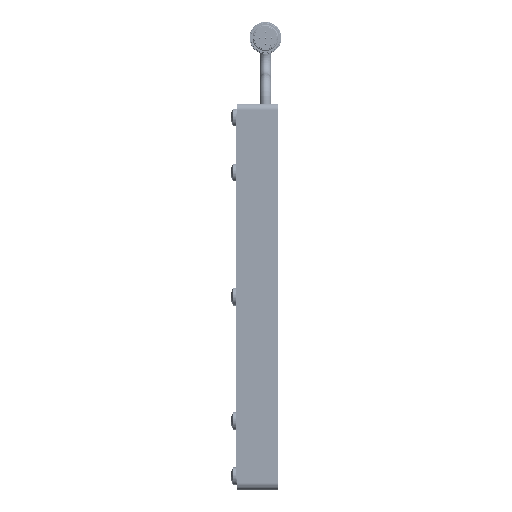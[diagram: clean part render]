
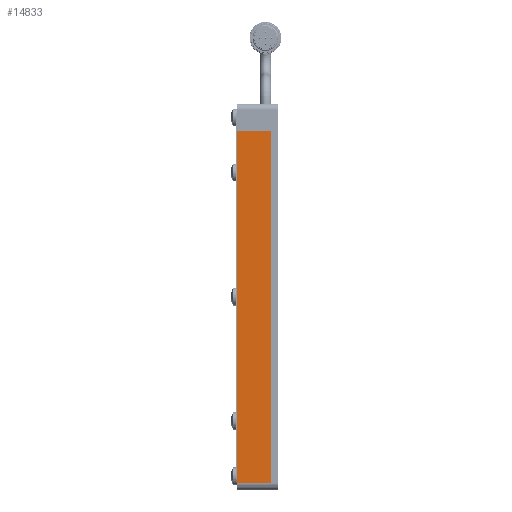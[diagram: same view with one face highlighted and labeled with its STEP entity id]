
A CAD part, left-side view. The second image highlights one B-rep face of the part: STEP entity #14833.
In plain terms, the highlighted planar face has unit normal (-1, 0, 0) as drawn and (0, 0, -1) by its records, which use the part's own axes.
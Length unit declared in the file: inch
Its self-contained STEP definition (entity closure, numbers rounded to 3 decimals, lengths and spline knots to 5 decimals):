
#191 = EDGE_LOOP ( 'NONE', ( #12796, #10749, #12968, #7931 ) ) ;
#310 = CARTESIAN_POINT ( 'NONE',  ( -3.5, 0.3125, -0.25 ) ) ;
#1153 = VERTEX_POINT ( 'NONE', #18248 ) ;
#2093 = DIRECTION ( 'NONE',  ( 0., 1., 0. ) ) ;
#2245 = DIRECTION ( 'NONE',  ( 0., -1., 0. ) ) ;
#2999 = PLANE ( 'NONE',  #5493 ) ;
#4456 = DIRECTION ( 'NONE',  ( -1., 0., 0. ) ) ;
#5493 = AXIS2_PLACEMENT_3D ( 'NONE', #10224, #5834, #17102 ) ;
#5834 = DIRECTION ( 'NONE',  ( 0., 0., 1. ) ) ;
#5902 = CARTESIAN_POINT ( 'NONE',  ( 3.375, -0.3125, -0.25 ) ) ;
#5972 = EDGE_CURVE ( 'NONE', #1153, #6699, #7171, .T. ) ;
#6699 = VERTEX_POINT ( 'NONE', #7871 ) ;
#6796 = VERTEX_POINT ( 'NONE', #16703 ) ;
#7171 = LINE ( 'NONE', #310, #15438 ) ;
#7320 = VECTOR ( 'NONE', #2093, 39.37008 ) ;
#7871 = CARTESIAN_POINT ( 'NONE',  ( -3., 0.3125, -0.25 ) ) ;
#7931 = ORIENTED_EDGE ( 'NONE', *, *, #15539, .T. ) ;
#8156 = DIRECTION ( 'NONE',  ( -1., 0., 0. ) ) ;
#9035 = VECTOR ( 'NONE', #8156, 39.37008 ) ;
#9386 = CARTESIAN_POINT ( 'NONE',  ( 3.375, 0.3125, -0.25 ) ) ;
#10224 = CARTESIAN_POINT ( 'NONE',  ( -3.5, 0.3125, -0.25 ) ) ;
#10749 = ORIENTED_EDGE ( 'NONE', *, *, #16287, .T. ) ;
#10970 = LINE ( 'NONE', #9386, #16641 ) ;
#11363 = FACE_OUTER_BOUND ( 'NONE', #191, .T. ) ;
#12029 = EDGE_CURVE ( 'NONE', #12248, #6796, #15484, .T. ) ;
#12248 = VERTEX_POINT ( 'NONE', #5902 ) ;
#12796 = ORIENTED_EDGE ( 'NONE', *, *, #5972, .F. ) ;
#12968 = ORIENTED_EDGE ( 'NONE', *, *, #12029, .T. ) ;
#14833 = ADVANCED_FACE ( 'NONE', ( #11363 ), #2999, .F. ) ;
#14973 = CARTESIAN_POINT ( 'NONE',  ( -3., -0.3125, -0.25 ) ) ;
#15200 = CARTESIAN_POINT ( 'NONE',  ( -3.5, -0.3125, -0.25 ) ) ;
#15438 = VECTOR ( 'NONE', #4456, 39.37008 ) ;
#15484 = LINE ( 'NONE', #15200, #9035 ) ;
#15539 = EDGE_CURVE ( 'NONE', #6796, #6699, #16390, .T. ) ;
#16287 = EDGE_CURVE ( 'NONE', #1153, #12248, #10970, .T. ) ;
#16390 = LINE ( 'NONE', #14973, #7320 ) ;
#16641 = VECTOR ( 'NONE', #2245, 39.37008 ) ;
#16703 = CARTESIAN_POINT ( 'NONE',  ( -3., -0.3125, -0.25 ) ) ;
#17102 = DIRECTION ( 'NONE',  ( 1., 0., 0. ) ) ;
#18248 = CARTESIAN_POINT ( 'NONE',  ( 3.375, 0.3125, -0.25 ) ) ;
